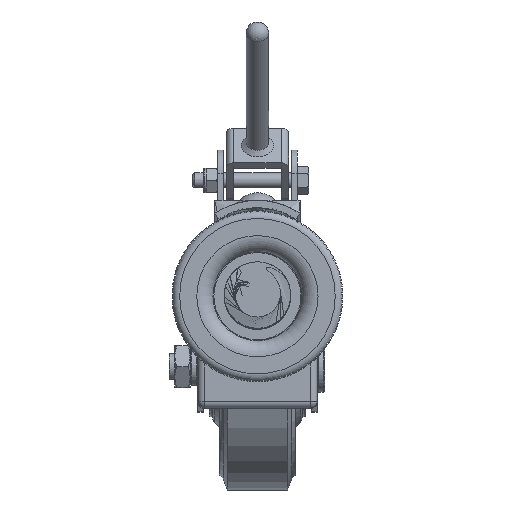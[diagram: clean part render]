
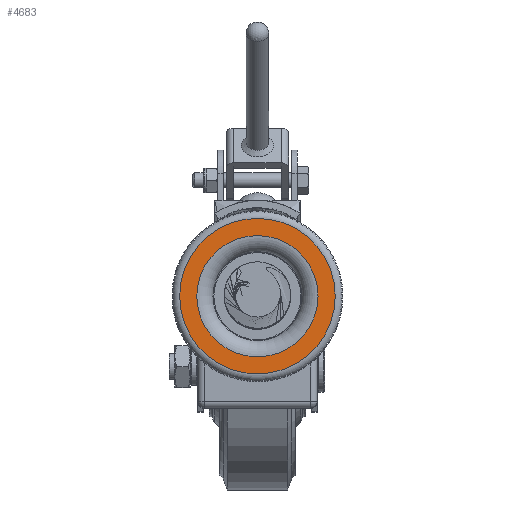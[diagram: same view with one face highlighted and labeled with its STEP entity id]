
A CAD part, top view. The second image highlights one B-rep face of the part: STEP entity #4683.
In plain terms, the highlighted planar face has unit normal (0, 0, 1).
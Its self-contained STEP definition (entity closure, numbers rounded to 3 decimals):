
#4683=ADVANCED_FACE('',(#6270,#6271),#5574,.F.);
#5574=PLANE('',#18126);
#6270=FACE_BOUND('',#6705,.T.);
#6271=FACE_BOUND('',#6706,.T.);
#6705=EDGE_LOOP('',(#8526));
#6706=EDGE_LOOP('',(#8527));
#8526=ORIENTED_EDGE('',*,*,#15320,.F.);
#8527=ORIENTED_EDGE('',*,*,#15049,.T.);
#13304=VERTEX_POINT('',#24873);
#13485=VERTEX_POINT('',#26692);
#15049=EDGE_CURVE('',#13304,#13304,#17445,.T.);
#15320=EDGE_CURVE('',#13485,#13485,#17446,.T.);
#17445=CIRCLE('',#18123,41.);
#17446=CIRCLE('',#18125,31.95);
#18123=AXIS2_PLACEMENT_3D('',#24872,#20185,#20186);
#18125=AXIS2_PLACEMENT_3D('',#26691,#20189,#20190);
#18126=AXIS2_PLACEMENT_3D('',#26693,#20191,#20192);
#20185=DIRECTION('',(0.,0.,1.));
#20186=DIRECTION('',(-1.,0.,0.));
#20189=DIRECTION('',(0.,0.,1.));
#20190=DIRECTION('',(-1.,0.,0.));
#20191=DIRECTION('',(0.,0.,-1.));
#20192=DIRECTION('',(1.,0.,0.));
#24872=CARTESIAN_POINT('',(0.,0.,-343.));
#24873=CARTESIAN_POINT('',(-41.,0.,-343.));
#26691=CARTESIAN_POINT('',(0.,0.,-343.));
#26692=CARTESIAN_POINT('',(-31.95,0.,-343.));
#26693=CARTESIAN_POINT('',(31.95,0.,-343.));
